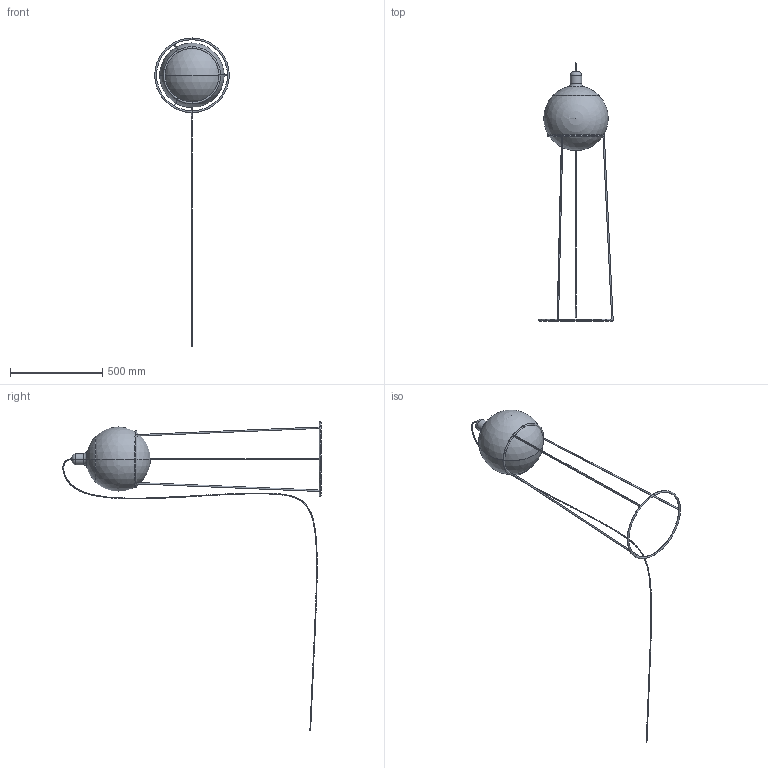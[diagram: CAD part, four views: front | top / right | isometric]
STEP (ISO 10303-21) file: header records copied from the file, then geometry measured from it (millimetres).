
FILE_DESCRIPTION (( 'STEP AP214' ), '1' );
FILE_NAME ('Dolly_golv_grön_BS.STEP', '2019-11-18T10:03:00', ( '' ), ( '' ), 'SwSTEP 2.0', 'SolidWorks 2018', '' );
FILE_SCHEMA (( 'AUTOMOTIVE_DESIGN' ));
Length unit declared in the file: millimetre
Products named in the file (4): Dolly_golv_gr霵_BS; dolly_golvställning_grön_BS; Dolly_Gr霵_BS; Dolly_golv_BS_Sladd
Assembly tree (3 placements, depth 2):
  Dolly_golv_gr霵_BS
    dolly_golvställning_grön_BS
    Dolly_Gr霵_BS
    Dolly_golv_BS_Sladd
Bounding box: 405 x 1399.98 x 1671.52 mm (x, y, z)
Volume: 25563319.8 mm3; surface area: 1438493.6 mm2
Topology: 5 solids, 6 shells, 39 faces, 92 edges, 57 vertices
Faces by surface type: torus 14, cylinder 8, sphere 8, plane 4, cone 3, bspline 2
Entity records: 2263 total; most frequent: CARTESIAN_POINT 1266, DIRECTION 198, ORIENTED_EDGE 154, AXIS2_PLACEMENT_3D 95, EDGE_CURVE 77, CIRCLE 52, VERTEX_POINT 48, EDGE_LOOP 45
